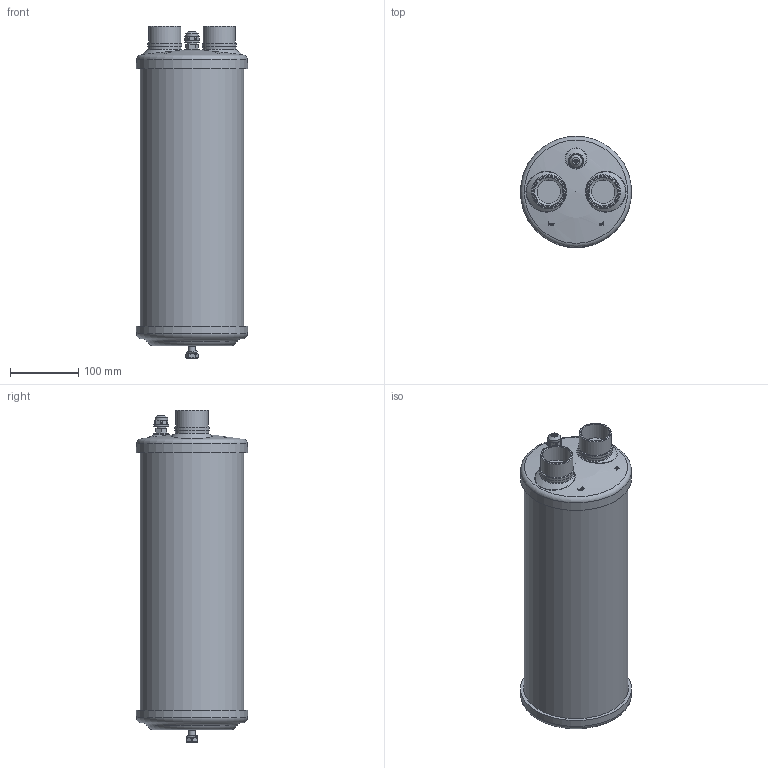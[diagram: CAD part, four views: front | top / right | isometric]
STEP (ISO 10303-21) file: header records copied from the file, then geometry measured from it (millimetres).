
FILE_DESCRIPTION(/* description */ (''),/* implementation_level */ '2;1');
FILE_NAME(/* name */ '5540_13',/* time_stamp */ '2009-11-24T14:30:16+01:00',/* author */ (''),/* organization */ (''),/* preprocessor_version */ 'ST-DEVELOPER v9',/* originating_system */ 'UGS - NX 4.0',/* authorisation */ '');
FILE_SCHEMA (('CONFIG_CONTROL_DESIGN'));
Length unit declared in the file: millimetre
Products named in the file (1): VSal11FFlrqb
Bounding box: 163.3 x 163.3 x 487.5 mm (x, y, z)
Volume: 1183775 mm3; surface area: 540910.6 mm2
Topology: 3 solids, 4 shells, 307 faces, 751 edges, 480 vertices
Faces by surface type: plane 140, cylinder 74, cone 51, torus 21, sphere 11, extrusion 9, bspline 1
Full cylindrical faces by diameter (mm): 4 x1, 4.1 x8, 6 x1, 8 x1, 8.1 x1, 10 x1, 10.5 x1, 12 x1, 12.1 x1, 13.7 x2, 14.35 x1, 15.875 x1, 18 x1, 18.5 x1, 22 x1, 22.1 x1, 34.5 x2, 38.5 x2, 38.6 x2, 41.5 x2, 47.1 x2, 48.6 x2, 143.5 x1, 152.5 x1
Entity records: 10008 total; most frequent: CARTESIAN_POINT 3321, DIRECTION 1357, ORIENTED_EDGE 1228, EDGE_CURVE 614, AXIS2_PLACEMENT_3D 561, EDGE_LOOP 458, VERTEX_POINT 444, ADVANCED_FACE 307
